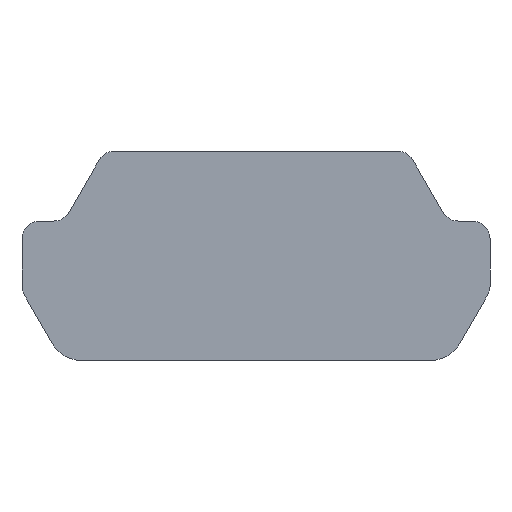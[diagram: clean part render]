
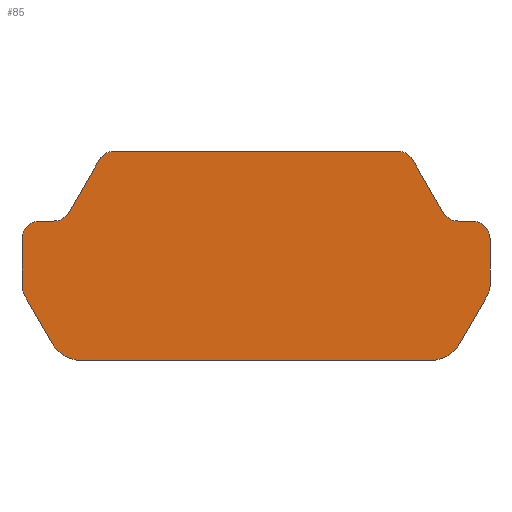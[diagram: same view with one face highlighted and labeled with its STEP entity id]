
A CAD part, front view. The second image highlights one B-rep face of the part: STEP entity #85.
In plain terms, the highlighted planar face has unit normal (0, -1, 0).
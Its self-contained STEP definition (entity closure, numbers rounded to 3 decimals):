
#85=ADVANCED_FACE('',(#177),#178,.T.);
#177=FACE_OUTER_BOUND('',#280,.T.);
#178=PLANE('',#281);
#280=EDGE_LOOP('',(#450,#451,#452,#453,#454,#455,#456,#457,#458,#459,#460,#461,#462,#463,#464,#465,#466,#467,#468,#469));
#281=AXIS2_PLACEMENT_3D('',#470,#471,#472);
#450=ORIENTED_EDGE('',*,*,#580,.F.);
#451=ORIENTED_EDGE('',*,*,#638,.F.);
#452=ORIENTED_EDGE('',*,*,#608,.F.);
#453=ORIENTED_EDGE('',*,*,#635,.F.);
#454=ORIENTED_EDGE('',*,*,#575,.F.);
#455=ORIENTED_EDGE('',*,*,#617,.F.);
#456=ORIENTED_EDGE('',*,*,#585,.F.);
#457=ORIENTED_EDGE('',*,*,#639,.F.);
#458=ORIENTED_EDGE('',*,*,#613,.F.);
#459=ORIENTED_EDGE('',*,*,#604,.F.);
#460=ORIENTED_EDGE('',*,*,#570,.F.);
#461=ORIENTED_EDGE('',*,*,#631,.F.);
#462=ORIENTED_EDGE('',*,*,#640,.F.);
#463=ORIENTED_EDGE('',*,*,#641,.F.);
#464=ORIENTED_EDGE('',*,*,#642,.F.);
#465=ORIENTED_EDGE('',*,*,#596,.F.);
#466=ORIENTED_EDGE('',*,*,#643,.F.);
#467=ORIENTED_EDGE('',*,*,#644,.F.);
#468=ORIENTED_EDGE('',*,*,#624,.F.);
#469=ORIENTED_EDGE('',*,*,#620,.F.);
#470=CARTESIAN_POINT('',(-5.789,-6.0,-3.1));
#471=DIRECTION('',(0.0,-1.0,0.0));
#472=DIRECTION('',(1.0,0.0,0.0));
#570=EDGE_CURVE('',#667,#668,#669,.T.);
#575=EDGE_CURVE('',#676,#677,#678,.T.);
#580=EDGE_CURVE('',#685,#686,#687,.T.);
#585=EDGE_CURVE('',#694,#695,#696,.T.);
#596=EDGE_CURVE('',#713,#714,#715,.T.);
#604=EDGE_CURVE('',#668,#727,#728,.T.);
#608=EDGE_CURVE('',#733,#734,#735,.T.);
#613=EDGE_CURVE('',#727,#742,#743,.T.);
#617=EDGE_CURVE('',#695,#676,#748,.T.);
#620=EDGE_CURVE('',#686,#751,#752,.T.);
#624=EDGE_CURVE('',#751,#757,#758,.T.);
#631=EDGE_CURVE('',#768,#667,#769,.T.);
#635=EDGE_CURVE('',#677,#733,#774,.T.);
#638=EDGE_CURVE('',#734,#685,#777,.T.);
#639=EDGE_CURVE('',#742,#694,#778,.T.);
#640=EDGE_CURVE('',#779,#768,#780,.T.);
#641=EDGE_CURVE('',#781,#779,#782,.T.);
#642=EDGE_CURVE('',#714,#781,#783,.T.);
#643=EDGE_CURVE('',#784,#713,#785,.T.);
#644=EDGE_CURVE('',#757,#784,#786,.T.);
#667=VERTEX_POINT('',#814);
#668=VERTEX_POINT('',#815);
#669=CIRCLE('',#816,0.5);
#676=VERTEX_POINT('',#825);
#677=VERTEX_POINT('',#826);
#678=CIRCLE('',#827,0.5);
#685=VERTEX_POINT('',#836);
#686=VERTEX_POINT('',#837);
#687=CIRCLE('',#838,0.5);
#694=VERTEX_POINT('',#847);
#695=VERTEX_POINT('',#848);
#696=CIRCLE('',#849,1.);
#713=VERTEX_POINT('',#868);
#714=VERTEX_POINT('',#869);
#715=LINE('',#870,#871);
#727=VERTEX_POINT('',#886);
#728=LINE('',#887,#888);
#733=VERTEX_POINT('',#895);
#734=VERTEX_POINT('',#896);
#735=CIRCLE('',#897,0.5);
#742=VERTEX_POINT('',#906);
#743=CIRCLE('',#907,1.0);
#748=LINE('',#913,#914);
#751=VERTEX_POINT('',#918);
#752=LINE('',#919,#920);
#757=VERTEX_POINT('',#927);
#758=CIRCLE('',#928,0.5);
#768=VERTEX_POINT('',#939);
#769=LINE('',#940,#941);
#774=LINE('',#948,#949);
#777=LINE('',#953,#954);
#778=LINE('',#955,#956);
#779=VERTEX_POINT('',#957);
#780=CIRCLE('',#958,0.5);
#781=VERTEX_POINT('',#959);
#782=LINE('',#960,#961);
#783=CIRCLE('',#962,0.5);
#784=VERTEX_POINT('',#963);
#785=CIRCLE('',#964,0.5);
#786=LINE('',#965,#966);
#814=CARTESIAN_POINT('',(6.7,-6.0,-5.466));
#815=CARTESIAN_POINT('',(6.633,-6.0,-5.716));
#816=AXIS2_PLACEMENT_3D('',#1000,#1001,#1002);
#825=CARTESIAN_POINT('',(-6.633,-6.0,-5.716));
#826=CARTESIAN_POINT('',(-6.7,-6.0,-5.466));
#827=AXIS2_PLACEMENT_3D('',#1008,#1009,#1010);
#836=CARTESIAN_POINT('',(-5.789,-6.0,-3.6));
#837=CARTESIAN_POINT('',(-5.356,-6.0,-3.35));
#838=AXIS2_PLACEMENT_3D('',#1016,#1017,#1018);
#847=CARTESIAN_POINT('',(-4.968,-6.0,-7.6));
#848=CARTESIAN_POINT('',(-5.834,-6.0,-7.1));
#849=AXIS2_PLACEMENT_3D('',#1024,#1025,#1026);
#868=CARTESIAN_POINT('',(4.49,-6.0,-1.85));
#869=CARTESIAN_POINT('',(5.356,-6.0,-3.35));
#870=CARTESIAN_POINT('',(4.49,-6.0,-1.85));
#871=VECTOR('',#1044,1.0);
#886=CARTESIAN_POINT('',(5.834,-6.0,-7.1));
#887=CARTESIAN_POINT('',(6.633,-6.0,-5.716));
#888=VECTOR('',#1054,1.0);
#895=CARTESIAN_POINT('',(-6.7,-6.0,-4.1));
#896=CARTESIAN_POINT('',(-6.2,-6.0,-3.6));
#897=AXIS2_PLACEMENT_3D('',#1057,#1058,#1059);
#906=CARTESIAN_POINT('',(4.968,-6.0,-7.6));
#907=AXIS2_PLACEMENT_3D('',#1065,#1066,#1067);
#913=CARTESIAN_POINT('',(-5.834,-6.0,-7.1));
#914=VECTOR('',#1072,1.0);
#918=CARTESIAN_POINT('',(-4.49,-6.0,-1.85));
#919=CARTESIAN_POINT('',(-5.356,-6.0,-3.35));
#920=VECTOR('',#1074,1.0);
#927=CARTESIAN_POINT('',(-4.057,-6.0,-1.6));
#928=AXIS2_PLACEMENT_3D('',#1077,#1078,#1079);
#939=CARTESIAN_POINT('',(6.7,-6.0,-4.1));
#940=CARTESIAN_POINT('',(6.7,-6.0,-4.1));
#941=VECTOR('',#1090,1.0);
#948=CARTESIAN_POINT('',(-6.7,-6.0,-5.466));
#949=VECTOR('',#1093,1.0);
#953=CARTESIAN_POINT('',(-6.2,-6.0,-3.6));
#954=VECTOR('',#1095,1.0);
#955=CARTESIAN_POINT('',(4.968,-6.0,-7.6));
#956=VECTOR('',#1096,1.0);
#957=CARTESIAN_POINT('',(6.2,-6.0,-3.6));
#958=AXIS2_PLACEMENT_3D('',#1097,#1098,#1099);
#959=CARTESIAN_POINT('',(5.789,-6.0,-3.6));
#960=CARTESIAN_POINT('',(5.789,-6.0,-3.6));
#961=VECTOR('',#1100,1.0);
#962=AXIS2_PLACEMENT_3D('',#1101,#1102,#1103);
#963=CARTESIAN_POINT('',(4.057,-6.0,-1.6));
#964=AXIS2_PLACEMENT_3D('',#1104,#1105,#1106);
#965=CARTESIAN_POINT('',(-4.057,-6.0,-1.6));
#966=VECTOR('',#1107,1.0);
#1000=CARTESIAN_POINT('',(6.2,-6.0,-5.466));
#1001=DIRECTION('',(0.0,1.0,0.0));
#1002=DIRECTION('',(-1.0,0.0,0.0));
#1008=CARTESIAN_POINT('',(-6.2,-6.0,-5.466));
#1009=DIRECTION('',(0.0,1.0,0.0));
#1010=DIRECTION('',(-1.0,0.0,0.0));
#1016=CARTESIAN_POINT('',(-5.789,-6.0,-3.1));
#1017=DIRECTION('',(0.0,-1.0,0.0));
#1018=DIRECTION('',(1.0,0.0,0.0));
#1024=CARTESIAN_POINT('',(-4.968,-6.0,-6.6));
#1025=DIRECTION('',(0.0,1.0,0.0));
#1026=DIRECTION('',(-1.0,0.0,0.0));
#1044=DIRECTION('',(0.5,0.0,-0.866));
#1054=DIRECTION('',(-0.5,0.0,-0.866));
#1057=CARTESIAN_POINT('',(-6.2,-6.0,-4.1));
#1058=DIRECTION('',(0.0,1.0,0.0));
#1059=DIRECTION('',(-1.0,0.0,0.0));
#1065=CARTESIAN_POINT('',(4.968,-6.0,-6.6));
#1066=DIRECTION('',(0.0,1.0,0.0));
#1067=DIRECTION('',(-1.0,0.0,0.0));
#1072=DIRECTION('',(-0.5,0.0,0.866));
#1074=DIRECTION('',(0.5,0.0,0.866));
#1077=CARTESIAN_POINT('',(-4.057,-6.0,-2.1));
#1078=DIRECTION('',(0.0,1.0,0.0));
#1079=DIRECTION('',(-1.0,0.0,0.0));
#1090=DIRECTION('',(0.0,0.0,-1.0));
#1093=DIRECTION('',(0.0,0.0,1.0));
#1095=DIRECTION('',(1.0,0.0,0.0));
#1096=DIRECTION('',(-1.0,0.0,0.0));
#1097=CARTESIAN_POINT('',(6.2,-6.0,-4.1));
#1098=DIRECTION('',(0.0,1.0,0.0));
#1099=DIRECTION('',(-1.0,0.0,0.0));
#1100=DIRECTION('',(1.0,0.0,0.0));
#1101=CARTESIAN_POINT('',(5.789,-6.0,-3.1));
#1102=DIRECTION('',(0.0,-1.0,0.0));
#1103=DIRECTION('',(1.0,0.0,0.0));
#1104=CARTESIAN_POINT('',(4.057,-6.0,-2.1));
#1105=DIRECTION('',(0.0,1.0,0.0));
#1106=DIRECTION('',(-1.0,0.0,0.0));
#1107=DIRECTION('',(1.0,0.0,0.0));
